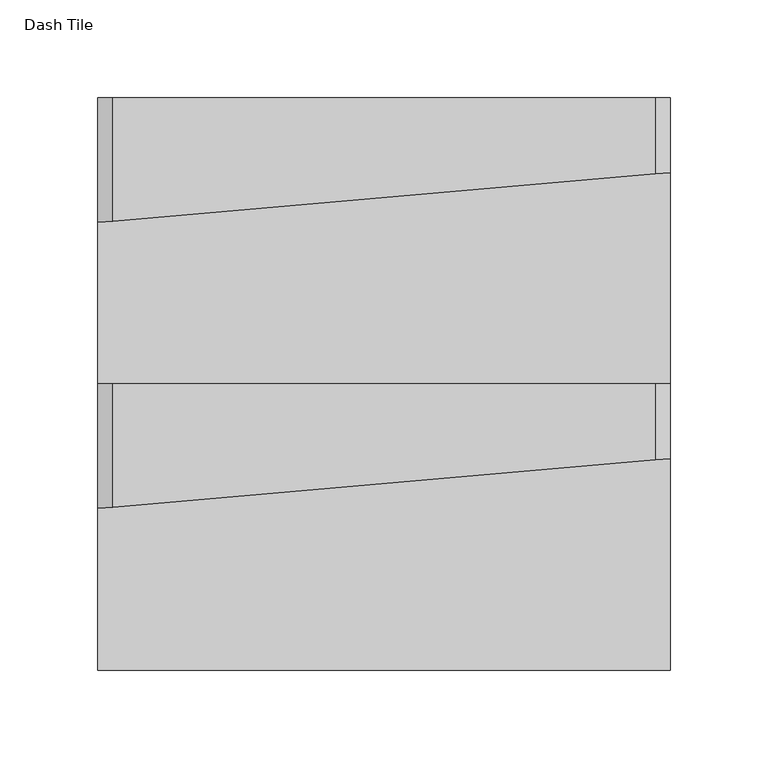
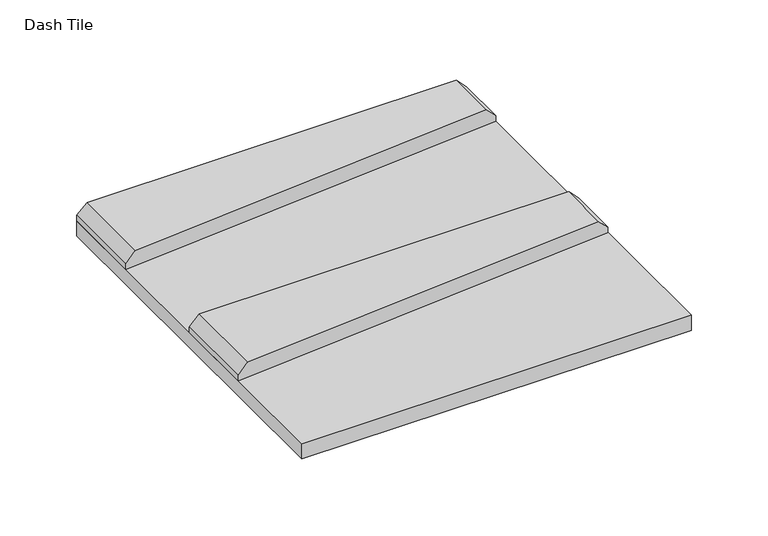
"""IFC4 building model written with IfcOpenShell, lengths in millimetres: proxy geometry, Wall-Panel-Kirei-EchoPanel-Dash_Tile : Dash Tile."""

from ifc_helpers import new_model, si_unit, origin, origin_with_axes, place, context, project, spatial, polyline, outline, extrude, faceted_brep, source, transform, mapped, element, save


def dash_tile_b588e03b(model_context):
    return source(origin(), model_context, "Body", "SolidModel", [
        faceted_brep([(-129.7483594, 83.2126087, 24.0), (147.1116406, 107.2873913, 24.0), (147.1116406, 146.05, 24.0), (-129.7483594, 146.05, 24.0), (-137.3683594, 82.55, 12.0), (154.7316406, 107.95, 12.0), (154.7316406, 107.95, 16.38), (-137.3683594, 82.55, 16.38), (154.7316406, 146.05, 12.0), (154.7316406, 146.05, 16.38), (-137.3683594, 146.05, 12.0), (-137.3683594, 146.05, 16.38)], [[[0, 1, 2, 3]], [[4, 5, 6, 1, 0, 7]], [[5, 8, 9, 6]], [[8, 10, 11, 3, 2, 9]], [[10, 4, 7, 11]], [[4, 10, 8, 5]], [[0, 3, 11, 7]], [[2, 1, 6, 9]]]),
        faceted_brep([(-129.7483594, -62.8373913, 24.0), (147.1116406, -38.7626087, 24.0), (147.1116406, 0.0, 24.0), (-129.7483594, 0.0, 24.0), (-137.3683594, -63.5, 12.0), (154.7316406, -38.1, 12.0), (154.7316406, -38.1, 16.38), (-137.3683594, -63.5, 16.38), (154.7316406, 0.0, 12.0), (-137.3683594, 0.0, 12.0), (-137.3683594, 0.0, 16.38), (154.7316406, 0.0, 16.38)], [[[0, 1, 2, 3]], [[4, 5, 6, 1, 0, 7]], [[8, 9, 10, 3, 2, 11]], [[9, 8, 5, 4]], [[9, 4, 7, 10]], [[5, 8, 11, 6]], [[0, 3, 10, 7]], [[2, 1, 6, 11]]]),
        extrude(outline(polyline([(154.7316406, 146.05), (154.7316406, -146.05), (-137.3683594, -146.05), (-137.3683594, 146.05), (154.7316406, 146.05)])), origin_with_axes(), (0.0, 0.0, 1.0), 12.0),
    ])


if __name__ == "__main__":
    model = new_model("IFC4")
    model_context = context("Model", 3, world=origin())
    ifc_project = project(units=[si_unit("LENGTHUNIT", "METRE", prefix="MILLI")], contexts=[model_context])
    site = spatial("IfcSite", under=ifc_project)
    building = spatial("IfcBuilding", under=site)
    placement = place(None, origin())
    dash_tile_shape = dash_tile_b588e03b(model_context)
    element("IfcBuildingElementProxy", 1, Name="Wall-Panel-Kirei-EchoPanel-Dash_Tile : Dash Tile", ObjectType="Wall-Panel-Kirei-EchoPanel-Dash_Tile : Dash Tile", at=placement, inside=building, context=model_context, shape_type="MappedRepresentation", body=[
        mapped(dash_tile_shape, transform((0.0, 0.0, 0.0), x_axis=(1.0, 0.0, 0.0), y_axis=(0.0, 1.0, 0.0), z_axis=(0.0, 0.0, 1.0))),
    ])
    save(model, "model.ifc")
